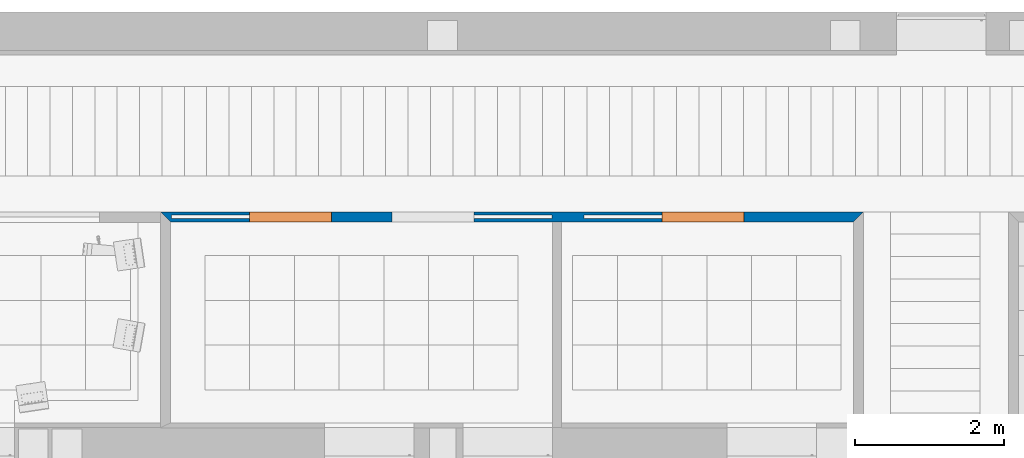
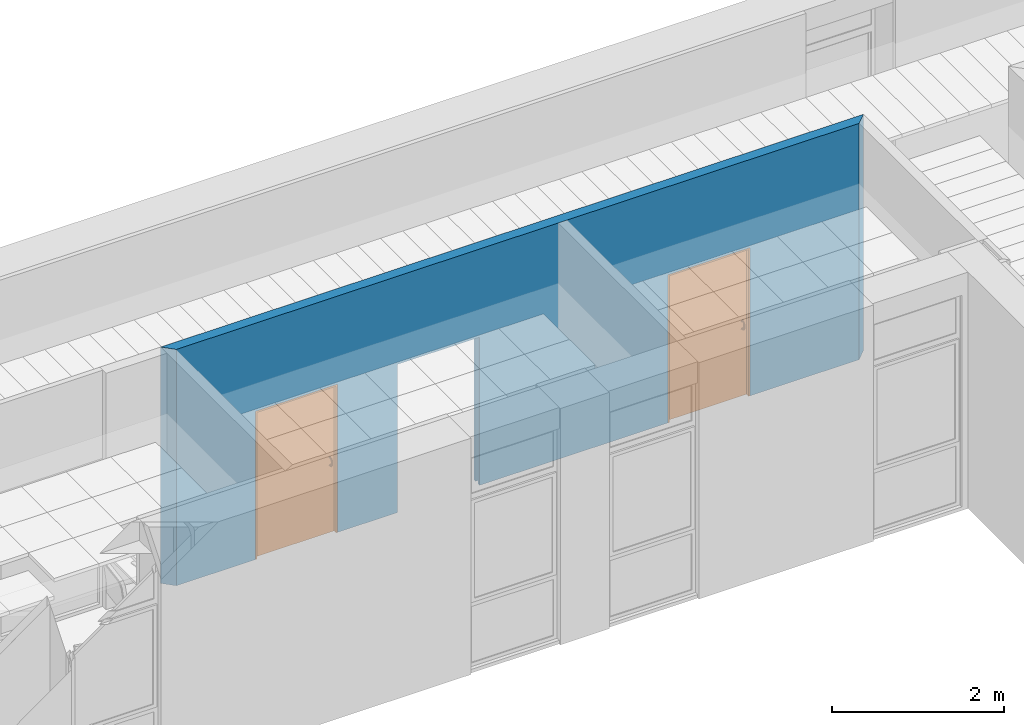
# One storey, part 44 of 68: 2 proxies, 1 wall, 3 openings.
"""IFC2X3 building model written with IfcOpenShell, lengths in millimetres."""

from ifc_helpers import new_model, entity, si_unit, converted_unit, derived_unit, money_unit, direction, frame, origin_with_axes, origin_2d_with_axis, place, context, subcontext, project, spatial, polyline, rectangle, outline, extrude, open_shell, faceted_brep, surface_model, source, transform, mapped, material, layer, layer_set, layer_usage, type_object, element, fill, save


model = new_model("IFC2X3")

# Units and contexts
model_context = context("Model", 3, precision=0.01, world=origin_with_axes(), true_north=direction((0.0, 1.0)))
body_context = subcontext(model_context, "Body", "Model", "MODEL_VIEW")
ifc_project = project(units=[si_unit("LENGTHUNIT", "METRE", prefix="MILLI"), si_unit("AREAUNIT", "SQUARE_METRE"), si_unit("VOLUMEUNIT", "CUBIC_METRE"), converted_unit("PLANEANGLEUNIT", "DEGREE", entity("IfcPlaneAngleMeasure", 0.0174532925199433), si_unit("PLANEANGLEUNIT", "RADIAN"), dimensions=[0, 0, 0, 0, 0, 0, 0]), money_unit("USD"), converted_unit("TIMEUNIT", "Year", entity("IfcTimeMeasure", 31557600.0), si_unit("TIMEUNIT", "SECOND"), dimensions=[0, 0, 1, 0, 0, 0, 0]), si_unit("MASSUNIT", "GRAM", prefix="KILO"), si_unit("THERMODYNAMICTEMPERATUREUNIT", "DEGREE_CELSIUS"), si_unit("LUMINOUSINTENSITYUNIT", "LUMEN"), si_unit("ENERGYUNIT", "JOULE", prefix="MEGA"), derived_unit("THERMALCONDUCTANCEUNIT", [(si_unit("POWERUNIT", "WATT"), 1), (si_unit("LENGTHUNIT", "METRE"), -1), (si_unit("THERMODYNAMICTEMPERATUREUNIT", "KELVIN"), -1)]), derived_unit("SPECIFICHEATCAPACITYUNIT", [(si_unit("ENERGYUNIT", "JOULE"), 1), (si_unit("MASSUNIT", "GRAM", prefix="KILO"), -1), (si_unit("THERMODYNAMICTEMPERATUREUNIT", "KELVIN"), -1)]), derived_unit("MASSDENSITYUNIT", [(si_unit("MASSUNIT", "GRAM", prefix="KILO"), 1), (si_unit("VOLUMEUNIT", "CUBIC_METRE"), -1)])], contexts=[model_context])

# Site, building, storey
site_placement = place(None, origin_with_axes())
site = spatial("IfcSite", under=ifc_project, at=site_placement, Name="Sitio", CompositionType="ELEMENT")
building_placement = place(site_placement, origin_with_axes())
building = spatial("IfcBuilding", under=site, at=building_placement, Name="Construcción", CompositionType="ELEMENT")
storey_placement = place(building_placement, origin_with_axes())
storey = spatial("IfcBuildingStorey", under=building, at=storey_placement, Name="PLANTA 1ª", CompositionType="ELEMENT", Elevation=0.0)

# Wall, openings, proxies
ifc_material_1 = material(Name="Panel de Yeso Laminado")
ifc_layer_1 = layer(ifc_material_1, 13.0, ventilated="UNKNOWN")
ifc_layer_2 = layer(ifc_material_1, 13.0, ventilated="UNKNOWN")
ifc_material_2 = material(Name="ARQ_AI033_Aillament_Llana_De_Roca")
ifc_layer_3 = layer(ifc_material_2, 70.0, ventilated="UNKNOWN")
ifc_layer_4 = layer(ifc_material_1, 13.0, ventilated="UNKNOWN")
ifc_layer_5 = layer(ifc_material_1, 13.0, ventilated="UNKNOWN")
ifc_material_3 = material(Name="ARQ_EN271_Camara_Aire")
ifc_layer_6 = layer(ifc_material_3, 6.0, ventilated="UNKNOWN")
ifc_material_4 = material(Name="ARQ_FU093_Panellat_HPL")
ifc_layer_7 = layer(ifc_material_4, 6.0, ventilated="UNKNOWN")
ifc_layer_set = layer_set([ifc_layer_1, ifc_layer_2, ifc_layer_3, ifc_layer_4, ifc_layer_5, ifc_layer_6, ifc_layer_7], Name="CR Pladur 70 HPL 1 cara")
ifc_layer_usage = layer_usage(ifc_layer_set, "AXIS2", "POSITIVE", 0.0)
wall_type = type_object("IfcWallType", Name="CR Pladur 70 HPL 1 cara 134", PredefinedType="NOTDEFINED")
wall_placement = place(storey_placement, frame((-10845.8481802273, 1566.853055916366, 0.0), z_axis=(0.0, 0.0, 1.0), x_axis=(1.0, 0.0, 0.0)))
wall = element("IfcWallStandardCase", 1, at=wall_placement, inside=storey, type_object=wall_type, material=ifc_layer_usage, Name="MS-213", context=body_context, shape_type="SweptSolid", body=[
    extrude(outline(polyline([(0.0, 0.0), (9155.739175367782, 0.0), (9289.739175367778, 133.9999999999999), (-133.9999999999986, 133.9999999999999), (0.0, 0.0)])), origin_with_axes(), (0.0, 0.0, 1.0), 3350.0),
])
opening_1_placement = place(wall_placement, frame((7140.305255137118, 0.0, 0.0), z_axis=(0.0, 0.0, 1.0), x_axis=(1.0, 0.0, 0.0)))
opening_1 = element("IfcOpeningElement", 2, at=opening_1_placement, cuts=wall, Name="P-04", context=body_context, shape_type="SweptSolid", body=[
    extrude(rectangle(XDim=1100.0, YDim=2100.0, at=origin_2d_with_axis()), frame((0.0, 134.0000000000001, 1050.0), z_axis=(0.0, -1.0, 0.0), x_axis=(-1.0, 0.0, 0.0)), (0.0, 0.0, 1.0), 402.0),
    extrude(rectangle(XDim=1044.999992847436, YDim=2080.0, at=origin_2d_with_axis()), frame((-1072.499996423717, 42.00000000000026, 1040.0), z_axis=(0.0, 1.0, 0.0), x_axis=(-1.0, 0.0, 0.0)), (0.0, 0.0, 1.0), 50.0),
])
opening_2_placement = place(wall_placement, frame((1610.854027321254, 0.0, 0.0), z_axis=(0.0, 0.0, 1.0), x_axis=(1.0, 0.0, 0.0)))
opening_2 = element("IfcOpeningElement", 3, at=opening_2_placement, cuts=wall, Name="P-04", context=body_context, shape_type="SweptSolid", body=[
    extrude(rectangle(XDim=1100.000000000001, YDim=2100.0, at=origin_2d_with_axis()), frame((0.0, 134.0000000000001, 1050.0), z_axis=(0.0, -1.0, 0.0), x_axis=(-1.0, 0.0, 0.0)), (0.0, 0.0, 1.0), 402.0),
    extrude(rectangle(XDim=1044.999992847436, YDim=2080.0, at=origin_2d_with_axis()), frame((-1072.499996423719, 42.00000000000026, 1040.0), z_axis=(0.0, 1.0, 0.0), x_axis=(-1.0, 0.0, 0.0)), (0.0, 0.0, 1.0), 50.0),
])
opening_3_placement = place(wall_placement, frame((3517.761394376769, 0.0, 0.0), z_axis=(0.0, 0.0, 1.0), x_axis=(1.0, 0.0, 0.0)))
element("IfcOpeningElement", 4, at=opening_3_placement, cuts=wall, Name="P-04", context=body_context, shape_type="SweptSolid", body=[
    extrude(rectangle(XDim=1100.0, YDim=2100.0, at=origin_2d_with_axis()), frame((0.0, 134.0000000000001, 1050.0), z_axis=(0.0, 1.0, 0.0), x_axis=(1.0, 0.0, 0.0)), (0.0, 0.0, -1.0), 402.0),
    extrude(rectangle(XDim=1044.999992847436, YDim=2080.0, at=origin_2d_with_axis()), frame((1072.499996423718, 42.00000000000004, 1040.0), z_axis=(0.0, -1.0, 0.0), x_axis=(1.0, 0.0, 0.0)), (0.0, 0.0, -1.0), 50.0),
])
building_element_proxy_type = type_object("IfcBuildingElementProxyType", Name="Puerta Corredera Empotrada 27", PredefinedType="NOTDEFINED")
shared_shape = source(origin_with_axes(), body_context, "Body", "SurfaceModel", [
    faceted_brep([(-550.0, 0.0, 0.0), (-530.0, 0.0, 0.0), (-530.0, -134.0, 0.0), (-550.0, -134.0, 0.0), (-550.0, 0.0, 2080.0), (-530.0, 0.0, 2080.0), (-530.0, -134.0, 2080.0), (-550.0, -134.0, 2080.0)], [[[0, 1, 2, 3]], [[0, 4, 5, 1]], [[1, 5, 6, 2]], [[3, 2, 6, 7]], [[4, 0, 3, 7]], [[5, 4, 7, 6]]]),
    faceted_brep([(530.0, -42.00000000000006, 2080.0), (550.0, -42.00000000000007, 2080.0), (550.0, 0.0, 2080.0), (530.0, 0.0, 2080.0), (550.0, -42.00000000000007, 0.0), (530.0, -42.00000000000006, 0.0), (550.0, 0.0, 0.0), (530.0, 0.0, 0.0)], [[[0, 1, 2, 3]], [[4, 1, 0, 5]], [[1, 4, 6, 2]], [[7, 3, 2, 6]], [[5, 0, 3, 7]], [[4, 5, 7, 6]]]),
    faceted_brep([(550.0, -92.00000000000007, 0.0), (550.0, -92.00000000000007, 2080.0), (550.0, -134.0, 2080.0), (550.0, -134.0, 0.0), (530.0, -92.00000000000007, 2080.0), (530.0, -92.00000000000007, 0.0), (530.0, -134.0, 2080.0), (530.0, -134.0, 0.0)], [[[0, 1, 2, 3]], [[4, 1, 0, 5]], [[1, 4, 6, 2]], [[2, 6, 7, 3]], [[5, 0, 3, 7]], [[4, 5, 7, 6]]]),
    faceted_brep([(-550.0, 0.0, 2100.0), (-550.0, 0.0, 2080.0), (-550.0, -134.0, 2080.0), (-550.0, -134.0, 2100.0), (550.0, 0.0, 2100.0), (550.0, 0.0, 2080.0), (530.0, 0.0, 2080.0), (-530.0, 0.0, 2080.0), (-530.0, -134.0, 2080.0), (530.0, -134.0, 2080.0), (550.0, -134.0, 2080.0), (550.0, -134.0, 2100.0)], [[[0, 1, 2, 3]], [[0, 4, 5, 6, 7, 1]], [[1, 7, 8, 2]], [[3, 2, 8, 9, 10, 11]], [[4, 0, 3, 11]], [[5, 4, 11, 10]], [[6, 5, 10, 9]], [[7, 6, 9, 8]]]),
    faceted_brep([(-473.0000000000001, -109.5, 1050.980762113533), (-473.0000000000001, -94.5, 1055.0), (-473.937822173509, -94.5, 1058.5), (-473.937822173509, -111.25, 1054.011851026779), (-473.937822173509, -107.75, 1047.949673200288), (-473.937822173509, -94.5, 1051.5), (-476.5000000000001, -94.5, 1048.937822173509), (-480.0000000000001, -94.5, 1048.0), (-483.5000000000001, -94.5, 1048.937822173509), (-486.0621778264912, -94.5, 1051.5), (-487.0000000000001, -94.5, 1055.0), (-486.0621778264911, -94.5, 1058.5), (-483.5000000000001, -94.5, 1061.062177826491), (-480.0000000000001, -94.5, 1062.0), (-476.5000000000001, -94.5, 1061.062177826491), (-476.5000000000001, -112.5310889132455, 1056.230762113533), (-473.0000000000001, -120.4807621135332, 1040.0), (-473.937822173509, -123.5118510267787, 1041.75), (-476.5000000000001, -106.4689110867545, 1045.730762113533), (-473.937822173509, -117.4496732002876, 1038.25), (-480.0000000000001, -106.0, 1044.918584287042), (-483.5000000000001, -106.4689110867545, 1045.730762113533), (-486.0621778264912, -107.75, 1047.949673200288), (-487.0000000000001, -109.5, 1050.980762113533), (-486.0621778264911, -111.25, 1054.011851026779), (-483.5000000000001, -112.5310889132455, 1056.230762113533), (-480.0000000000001, -113.0, 1057.042939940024), (-476.5000000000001, -125.7307621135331, 1043.031088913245), (-473.0000000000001, -124.5, 1025.0), (-473.937822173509, -128.0, 1025.0), (-476.5000000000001, -115.2307621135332, 1036.968911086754), (-473.937822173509, -121.0, 1025.0), (-480.0000000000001, -114.4185842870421, 1036.5), (-483.5000000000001, -115.2307621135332, 1036.968911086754), (-486.0621778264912, -117.4496732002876, 1038.25), (-487.0000000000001, -120.4807621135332, 1040.0), (-486.0621778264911, -123.5118510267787, 1041.75), (-483.5000000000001, -125.7307621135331, 1043.031088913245), (-480.0000000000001, -126.5429399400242, 1043.5), (-476.5000000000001, -130.5621778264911, 1025.0), (-480.0000000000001, -131.5, 1025.0), (-483.5000000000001, -130.5621778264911, 1025.0), (-486.0621778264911, -128.0, 1025.0), (-487.0000000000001, -124.5, 1025.0), (-486.0621778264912, -121.0, 1025.0), (-483.5000000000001, -118.4378221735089, 1025.0), (-480.0000000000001, -117.5, 1025.0), (-476.5000000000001, -118.4378221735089, 1025.0)], [[[0, 1, 2, 3]], [[4, 5, 1, 0]], [[1, 5, 6, 7, 8, 9, 10, 11, 12, 13, 14, 2]], [[3, 2, 14, 15]], [[16, 0, 3, 17]], [[18, 6, 5, 4]], [[19, 4, 0, 16]], [[20, 7, 6, 18]], [[21, 8, 7, 20]], [[22, 9, 8, 21]], [[23, 10, 9, 22]], [[24, 11, 10, 23]], [[25, 12, 11, 24]], [[26, 13, 12, 25]], [[15, 14, 13, 26]], [[17, 3, 15, 27]], [[28, 16, 17, 29]], [[30, 18, 4, 19]], [[31, 19, 16, 28]], [[32, 20, 18, 30]], [[33, 21, 20, 32]], [[34, 22, 21, 33]], [[35, 23, 22, 34]], [[36, 24, 23, 35]], [[37, 25, 24, 36]], [[38, 26, 25, 37]], [[27, 15, 26, 38]], [[29, 17, 27, 39]], [[28, 29, 39, 40, 41, 42, 43, 44, 45, 46, 47, 31]], [[47, 30, 19, 31]], [[46, 32, 30, 47]], [[45, 33, 32, 46]], [[44, 34, 33, 45]], [[43, 35, 34, 44]], [[42, 36, 35, 43]], [[41, 37, 36, 42]], [[40, 38, 37, 41]], [[39, 27, 38, 40]]]),
    faceted_brep([(-487.0, -109.5, 949.0192378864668), (-487.0, -94.5, 945.0), (-486.0621778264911, -94.5, 941.5), (-486.0621778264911, -111.25, 945.9881489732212), (-486.0621778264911, -107.75, 952.0503267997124), (-486.0621778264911, -94.5, 948.5), (-483.5, -94.5, 951.062177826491), (-480.0, -94.5, 952.0), (-476.5, -94.5, 951.062177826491), (-473.9378221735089, -94.5, 948.5), (-473.0, -94.5, 945.0), (-473.9378221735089, -94.5, 941.5), (-476.5, -94.5, 938.937822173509), (-480.0, -94.5, 938.0), (-483.5, -94.5, 938.937822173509), (-483.5, -112.5310889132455, 943.7692378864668), (-487.0, -120.4807621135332, 960.0), (-486.0621778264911, -123.5118510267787, 958.2499999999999), (-483.5, -106.4689110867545, 954.2692378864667), (-486.0621778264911, -117.4496732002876, 961.75), (-480.0, -106.0, 955.0814157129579), (-476.5, -106.4689110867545, 954.2692378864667), (-473.9378221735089, -107.75, 952.0503267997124), (-473.0, -109.5, 949.0192378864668), (-473.9378221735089, -111.25, 945.9881489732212), (-476.5, -112.5310889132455, 943.7692378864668), (-480.0, -113.0, 942.9570600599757), (-483.5, -125.7307621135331, 956.9689110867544), (-487.0, -124.5, 975.0), (-486.0621778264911, -128.0, 975.0), (-483.5, -115.2307621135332, 963.0310889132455), (-486.0621778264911, -121.0, 975.0), (-480.0, -114.4185842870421, 963.5), (-476.5, -115.2307621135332, 963.0310889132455), (-473.9378221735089, -117.4496732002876, 961.75), (-473.0, -120.4807621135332, 960.0), (-473.9378221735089, -123.5118510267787, 958.2499999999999), (-476.5, -125.7307621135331, 956.9689110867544), (-480.0, -126.5429399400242, 956.5), (-483.5, -130.5621778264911, 975.0), (-480.0, -131.5, 975.0), (-476.5, -130.5621778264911, 975.0), (-473.9378221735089, -128.0, 975.0), (-473.0, -124.5, 975.0), (-473.9378221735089, -121.0, 975.0), (-476.5, -118.4378221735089, 975.0), (-480.0, -117.5, 975.0), (-483.5, -118.4378221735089, 975.0)], [[[0, 1, 2, 3]], [[4, 5, 1, 0]], [[1, 5, 6, 7, 8, 9, 10, 11, 12, 13, 14, 2]], [[3, 2, 14, 15]], [[16, 0, 3, 17]], [[18, 6, 5, 4]], [[19, 4, 0, 16]], [[20, 7, 6, 18]], [[21, 8, 7, 20]], [[22, 9, 8, 21]], [[23, 10, 9, 22]], [[24, 11, 10, 23]], [[25, 12, 11, 24]], [[26, 13, 12, 25]], [[15, 14, 13, 26]], [[17, 3, 15, 27]], [[28, 16, 17, 29]], [[30, 18, 4, 19]], [[31, 19, 16, 28]], [[32, 20, 18, 30]], [[33, 21, 20, 32]], [[34, 22, 21, 33]], [[35, 23, 22, 34]], [[36, 24, 23, 35]], [[37, 25, 24, 36]], [[38, 26, 25, 37]], [[27, 15, 26, 38]], [[29, 17, 27, 39]], [[28, 29, 39, 40, 41, 42, 43, 44, 45, 46, 47, 31]], [[47, 30, 19, 31]], [[46, 32, 30, 47]], [[45, 33, 32, 46]], [[44, 34, 33, 45]], [[43, 35, 34, 44]], [[42, 36, 35, 43]], [[41, 37, 36, 42]], [[40, 38, 37, 41]], [[39, 27, 38, 40]]]),
    surface_model("IfcShellBasedSurfaceModel", [(-473.0, -124.5, 975.0), (-473.9378221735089, -121.0, 975.0), (-473.9378221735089, -121.0, 1025.0), (-473.0, -124.5, 1025.0), (-476.5, -118.4378221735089, 975.0), (-476.5, -118.4378221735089, 1025.0), (-473.9378221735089, -128.0, 975.0), (-473.9378221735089, -128.0, 1025.0), (-480.0, -117.5, 975.0), (-480.0, -117.5, 1025.0), (-476.5, -130.5621778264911, 975.0), (-476.5, -130.5621778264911, 1025.0), (-483.5, -118.4378221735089, 975.0), (-483.5, -118.4378221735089, 1025.0), (-480.0, -131.5, 975.0), (-480.0, -131.5, 1025.0), (-486.0621778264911, -121.0, 975.0), (-486.0621778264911, -121.0, 1025.0), (-483.5, -130.5621778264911, 975.0), (-483.5, -130.5621778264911, 1025.0), (-487.0, -124.5, 975.0), (-487.0, -124.5, 1025.0), (-486.0621778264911, -128.0, 975.0), (-486.0621778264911, -128.0, 1025.0)], [open_shell([[[0, 1, 2, 3]], [[1, 4, 5, 2]], [[6, 0, 3, 7]], [[4, 8, 9, 5]], [[10, 6, 7, 11]], [[8, 12, 13, 9]], [[14, 10, 11, 15]], [[12, 16, 17, 13]], [[18, 14, 15, 19]], [[16, 20, 21, 17]], [[22, 18, 19, 23]], [[20, 22, 23, 21]]])]),
    faceted_brep([(-462.6794919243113, -87.0, 1045.0), (-470.0, -87.0, 1037.679491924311), (-480.0, -87.0, 1035.0), (-490.0, -87.0, 1037.679491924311), (-497.3205080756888, -87.0, 1045.0), (-500.0, -87.0, 1055.0), (-497.3205080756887, -87.0, 1065.0), (-490.0, -87.0, 1072.320508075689), (-480.0, -87.0, 1075.0), (-470.0, -87.0, 1072.320508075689), (-462.6794919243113, -87.0, 1065.0), (-459.9999999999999, -87.0, 1055.0), (-462.6794919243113, -94.5, 1045.0), (-470.0, -94.5, 1037.679491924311), (-480.0, -94.5, 1035.0), (-490.0, -94.5, 1037.679491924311), (-497.3205080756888, -94.5, 1045.0), (-500.0, -94.5, 1055.0), (-497.3205080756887, -94.5, 1065.0), (-490.0, -94.5, 1072.320508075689), (-480.0, -94.5, 1075.0), (-470.0, -94.5, 1072.320508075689), (-462.6794919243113, -94.5, 1065.0), (-459.9999999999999, -94.5, 1055.0)], [[[0, 1, 2, 3, 4, 5, 6, 7, 8, 9, 10, 11]], [[1, 0, 12, 13]], [[2, 1, 13, 14]], [[3, 2, 14, 15]], [[4, 3, 15, 16]], [[5, 4, 16, 17]], [[6, 5, 17, 18]], [[7, 6, 18, 19]], [[8, 7, 19, 20]], [[9, 8, 20, 21]], [[10, 9, 21, 22]], [[11, 10, 22, 23]], [[0, 11, 23, 12]], [[12, 23, 22, 21, 20, 19, 18, 17, 16, 15, 14, 13]]]),
    faceted_brep([(-462.6794919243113, -87.0, 934.9999999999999), (-470.0, -87.0, 927.6794919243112), (-480.0, -87.0, 924.9999999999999), (-490.0, -87.0, 927.6794919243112), (-497.3205080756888, -87.0, 934.9999999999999), (-500.0, -87.0, 945.0), (-497.3205080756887, -87.0, 955.0), (-490.0, -87.0, 962.3205080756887), (-480.0, -87.0, 965.0), (-470.0, -87.0, 962.3205080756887), (-462.6794919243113, -87.0, 955.0), (-459.9999999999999, -87.0, 945.0), (-462.6794919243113, -94.5, 934.9999999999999), (-470.0, -94.5, 927.6794919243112), (-480.0, -94.5, 924.9999999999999), (-490.0, -94.5, 927.6794919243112), (-497.3205080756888, -94.5, 934.9999999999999), (-500.0, -94.5, 945.0), (-497.3205080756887, -94.5, 955.0), (-490.0, -94.5, 962.3205080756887), (-480.0, -94.5, 965.0), (-470.0, -94.5, 962.3205080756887), (-462.6794919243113, -94.5, 955.0), (-459.9999999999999, -94.5, 945.0)], [[[0, 1, 2, 3, 4, 5, 6, 7, 8, 9, 10, 11]], [[1, 0, 12, 13]], [[2, 1, 13, 14]], [[3, 2, 14, 15]], [[4, 3, 15, 16]], [[5, 4, 16, 17]], [[6, 5, 17, 18]], [[7, 6, 18, 19]], [[8, 7, 19, 20]], [[9, 8, 20, 21]], [[10, 9, 21, 22]], [[11, 10, 22, 23]], [[0, 11, 23, 12]], [[12, 23, 22, 21, 20, 19, 18, 17, 16, 15, 14, 13]]]),
    faceted_brep([(-473.0, -24.49999999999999, 1050.980762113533), (-473.9378221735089, -22.75, 1054.011851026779), (-473.9378221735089, -39.49999999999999, 1058.5), (-473.0, -39.49999999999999, 1055.0), (-473.0, -13.51923788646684, 1040.0), (-473.9378221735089, -10.4881489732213, 1041.75), (-476.5, -21.46891108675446, 1056.230762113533), (-476.5, -39.49999999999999, 1061.062177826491), (-480.0, -39.49999999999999, 1062.0), (-483.5, -39.49999999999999, 1061.062177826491), (-486.0621778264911, -39.49999999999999, 1058.5), (-487.0, -39.49999999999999, 1055.0), (-486.0621778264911, -39.49999999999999, 1051.5), (-483.5, -39.49999999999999, 1048.937822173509), (-480.0, -39.49999999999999, 1048.0), (-476.5, -39.49999999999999, 1048.937822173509), (-473.9378221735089, -39.49999999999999, 1051.5), (-473.9378221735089, -26.25, 1047.949673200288), (-473.0, -9.499999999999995, 1025.0), (-473.9378221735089, -5.999999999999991, 1025.0), (-476.5, -8.269237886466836, 1043.031088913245), (-473.9378221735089, -16.55032679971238, 1038.25), (-480.0, -21.0, 1057.042939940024), (-483.5, -21.46891108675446, 1056.230762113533), (-486.0621778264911, -22.75, 1054.011851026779), (-487.0, -24.49999999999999, 1050.980762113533), (-486.0621778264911, -26.25, 1047.949673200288), (-483.5, -27.53108891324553, 1045.730762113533), (-480.0, -28.0, 1044.918584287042), (-476.5, -27.53108891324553, 1045.730762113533), (-473.9378221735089, -13.0, 1025.0), (-476.5, -15.56217782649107, 1025.0), (-480.0, -16.49999999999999, 1025.0), (-483.5, -15.56217782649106, 1025.0), (-486.0621778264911, -12.99999999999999, 1025.0), (-487.0, -9.499999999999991, 1025.0), (-486.0621778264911, -5.999999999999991, 1025.0), (-483.5, -3.437822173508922, 1025.0), (-480.0, -2.499999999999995, 1025.0), (-476.5, -3.437822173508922, 1025.0), (-480.0, -7.457060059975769, 1043.5), (-476.5, -18.76923788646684, 1036.968911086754), (-483.5, -8.269237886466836, 1043.031088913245), (-486.0621778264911, -10.4881489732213, 1041.75), (-487.0, -13.51923788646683, 1040.0), (-486.0621778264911, -16.55032679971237, 1038.25), (-483.5, -18.76923788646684, 1036.968911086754), (-480.0, -19.58141571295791, 1036.5)], [[[0, 1, 2, 3]], [[4, 5, 1, 0]], [[1, 6, 7, 2]], [[3, 2, 7, 8, 9, 10, 11, 12, 13, 14, 15, 16]], [[17, 0, 3, 16]], [[18, 19, 5, 4]], [[5, 20, 6, 1]], [[21, 4, 0, 17]], [[6, 22, 8, 7]], [[22, 23, 9, 8]], [[23, 24, 10, 9]], [[24, 25, 11, 10]], [[25, 26, 12, 11]], [[26, 27, 13, 12]], [[27, 28, 14, 13]], [[28, 29, 15, 14]], [[29, 17, 16, 15]], [[18, 30, 31, 32, 33, 34, 35, 36, 37, 38, 39, 19]], [[19, 39, 20, 5]], [[30, 18, 4, 21]], [[20, 40, 22, 6]], [[41, 21, 17, 29]], [[40, 42, 23, 22]], [[42, 43, 24, 23]], [[43, 44, 25, 24]], [[44, 45, 26, 25]], [[45, 46, 27, 26]], [[46, 47, 28, 27]], [[47, 41, 29, 28]], [[31, 30, 21, 41]], [[32, 31, 41, 47]], [[33, 32, 47, 46]], [[34, 33, 46, 45]], [[35, 34, 45, 44]], [[36, 35, 44, 43]], [[37, 36, 43, 42]], [[38, 37, 42, 40]], [[39, 38, 40, 20]]]),
    faceted_brep([(-487.0, -24.5, 949.0192378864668), (-486.0621778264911, -22.75, 945.9881489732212), (-486.0621778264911, -39.5, 941.5), (-487.0, -39.5, 945.0), (-487.0, -13.51923788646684, 960.0), (-486.0621778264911, -10.48814897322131, 958.2499999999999), (-483.5, -21.46891108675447, 943.7692378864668), (-483.5, -39.5, 938.937822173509), (-480.0, -39.5, 938.0), (-476.5, -39.5, 938.937822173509), (-473.9378221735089, -39.5, 941.5), (-473.0, -39.5, 945.0), (-473.9378221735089, -39.5, 948.5), (-476.5, -39.5, 951.062177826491), (-480.0, -39.5, 952.0), (-483.5, -39.5, 951.062177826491), (-486.0621778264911, -39.5, 948.5), (-486.0621778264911, -26.25000000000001, 952.0503267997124), (-487.0, -9.500000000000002, 975.0), (-486.0621778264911, -5.999999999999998, 975.0), (-483.5, -8.269237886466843, 956.9689110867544), (-486.0621778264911, -16.55032679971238, 961.75), (-480.0, -21.0, 942.9570600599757), (-476.5, -21.46891108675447, 943.7692378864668), (-473.9378221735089, -22.75, 945.9881489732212), (-473.0, -24.5, 949.0192378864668), (-473.9378221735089, -26.25, 952.0503267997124), (-476.5, -27.53108891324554, 954.2692378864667), (-480.0, -28.0, 955.0814157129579), (-483.5, -27.53108891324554, 954.2692378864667), (-486.0621778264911, -13.00000000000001, 975.0), (-483.5, -15.56217782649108, 975.0), (-480.0, -16.5, 975.0), (-476.5, -15.56217782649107, 975.0), (-473.9378221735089, -13.0, 975.0), (-473.0, -9.499999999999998, 975.0), (-473.9378221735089, -5.999999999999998, 975.0), (-476.5, -3.43782217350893, 975.0), (-480.0, -2.500000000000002, 975.0), (-483.5, -3.43782217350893, 975.0), (-480.0, -7.457060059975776, 956.5), (-483.5, -18.76923788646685, 963.0310889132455), (-476.5, -8.269237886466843, 956.9689110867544), (-473.9378221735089, -10.48814897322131, 958.2499999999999), (-473.0, -13.51923788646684, 960.0), (-473.9378221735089, -16.55032679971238, 961.75), (-476.5, -18.76923788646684, 963.0310889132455), (-480.0, -19.58141571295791, 963.5)], [[[0, 1, 2, 3]], [[4, 5, 1, 0]], [[1, 6, 7, 2]], [[3, 2, 7, 8, 9, 10, 11, 12, 13, 14, 15, 16]], [[17, 0, 3, 16]], [[18, 19, 5, 4]], [[5, 20, 6, 1]], [[21, 4, 0, 17]], [[6, 22, 8, 7]], [[22, 23, 9, 8]], [[23, 24, 10, 9]], [[24, 25, 11, 10]], [[25, 26, 12, 11]], [[26, 27, 13, 12]], [[27, 28, 14, 13]], [[28, 29, 15, 14]], [[29, 17, 16, 15]], [[18, 30, 31, 32, 33, 34, 35, 36, 37, 38, 39, 19]], [[19, 39, 20, 5]], [[30, 18, 4, 21]], [[20, 40, 22, 6]], [[41, 21, 17, 29]], [[40, 42, 23, 22]], [[42, 43, 24, 23]], [[43, 44, 25, 24]], [[44, 45, 26, 25]], [[45, 46, 27, 26]], [[46, 47, 28, 27]], [[47, 41, 29, 28]], [[31, 30, 21, 41]], [[32, 31, 41, 47]], [[33, 32, 47, 46]], [[34, 33, 46, 45]], [[35, 34, 45, 44]], [[36, 35, 44, 43]], [[37, 36, 43, 42]], [[38, 37, 42, 40]], [[39, 38, 40, 20]]]),
    surface_model("IfcShellBasedSurfaceModel", [(-473.0, -9.500000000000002, 975.0), (-473.0, -9.499999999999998, 1025.0), (-473.9378221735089, -13.0, 1025.0), (-473.9378221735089, -13.0, 975.0), (-473.9378221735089, -5.999999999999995, 975.0), (-473.9378221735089, -5.999999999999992, 1025.0), (-476.5, -15.56217782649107, 1025.0), (-476.5, -15.56217782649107, 975.0), (-476.5, -3.437822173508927, 975.0), (-476.5, -3.437822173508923, 1025.0), (-480.0, -16.5, 1025.0), (-480.0, -16.5, 975.0), (-480.0, -2.500000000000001, 975.0), (-480.0, -2.499999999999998, 1025.0), (-483.5, -15.56217782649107, 1025.0), (-483.5, -15.56217782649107, 975.0), (-483.5, -3.437822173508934, 975.0), (-483.5, -3.43782217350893, 1025.0), (-486.0621778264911, -13.0, 1025.0), (-486.0621778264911, -13.00000000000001, 975.0), (-486.0621778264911, -6.000000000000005, 975.0), (-486.0621778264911, -6.000000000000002, 1025.0), (-487.0, -9.500000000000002, 1025.0), (-487.0, -9.500000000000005, 975.0)], [open_shell([[[0, 1, 2, 3]], [[4, 5, 1, 0]], [[3, 2, 6, 7]], [[8, 9, 5, 4]], [[7, 6, 10, 11]], [[12, 13, 9, 8]], [[11, 10, 14, 15]], [[16, 17, 13, 12]], [[15, 14, 18, 19]], [[20, 21, 17, 16]], [[19, 18, 22, 23]], [[23, 22, 21, 20]]])]),
    faceted_brep([(-462.6794919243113, -47.0, 1045.0), (-459.9999999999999, -47.0, 1055.0), (-462.6794919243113, -47.0, 1065.0), (-470.0, -47.0, 1072.320508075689), (-480.0, -47.0, 1075.0), (-490.0, -47.0, 1072.320508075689), (-497.3205080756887, -47.0, 1065.0), (-500.0, -47.0, 1055.0), (-497.3205080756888, -47.0, 1045.0), (-490.0, -47.0, 1037.679491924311), (-480.0, -47.0, 1035.0), (-470.0, -47.0, 1037.679491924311), (-462.6794919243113, -39.5, 1045.0), (-459.9999999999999, -39.5, 1055.0), (-462.6794919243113, -39.5, 1065.0), (-470.0, -39.5, 1072.320508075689), (-480.0, -39.5, 1075.0), (-490.0, -39.5, 1072.320508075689), (-497.3205080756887, -39.5, 1065.0), (-500.0, -39.5, 1055.0), (-497.3205080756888, -39.5, 1045.0), (-490.0, -39.5, 1037.679491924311), (-480.0, -39.5, 1035.0), (-470.0, -39.5, 1037.679491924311)], [[[0, 1, 2, 3, 4, 5, 6, 7, 8, 9, 10, 11]], [[0, 12, 13, 1]], [[1, 13, 14, 2]], [[2, 14, 15, 3]], [[3, 15, 16, 4]], [[4, 16, 17, 5]], [[5, 17, 18, 6]], [[6, 18, 19, 7]], [[7, 19, 20, 8]], [[8, 20, 21, 9]], [[9, 21, 22, 10]], [[10, 22, 23, 11]], [[11, 23, 12, 0]], [[12, 23, 22, 21, 20, 19, 18, 17, 16, 15, 14, 13]]]),
    faceted_brep([(-462.6794919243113, -47.0, 934.9999999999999), (-459.9999999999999, -47.0, 945.0), (-462.6794919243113, -47.0, 955.0), (-470.0, -47.0, 962.3205080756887), (-480.0, -47.0, 965.0), (-490.0, -47.0, 962.3205080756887), (-497.3205080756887, -47.0, 955.0), (-500.0, -47.0, 945.0), (-497.3205080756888, -47.0, 934.9999999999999), (-490.0, -47.0, 927.6794919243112), (-480.0, -47.0, 924.9999999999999), (-470.0, -47.0, 927.6794919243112), (-462.6794919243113, -39.5, 934.9999999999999), (-459.9999999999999, -39.5, 945.0), (-462.6794919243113, -39.5, 955.0), (-470.0, -39.5, 962.3205080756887), (-480.0, -39.5, 965.0), (-490.0, -39.5, 962.3205080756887), (-497.3205080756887, -39.5, 955.0), (-500.0, -39.5, 945.0), (-497.3205080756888, -39.5, 934.9999999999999), (-490.0, -39.5, 927.6794919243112), (-480.0, -39.5, 924.9999999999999), (-470.0, -39.5, 927.6794919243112)], [[[0, 1, 2, 3, 4, 5, 6, 7, 8, 9, 10, 11]], [[0, 12, 13, 1]], [[1, 13, 14, 2]], [[2, 14, 15, 3]], [[3, 15, 16, 4]], [[4, 16, 17, 5]], [[5, 17, 18, 6]], [[6, 18, 19, 7]], [[7, 19, 20, 8]], [[8, 20, 21, 9]], [[9, 21, 22, 10]], [[10, 22, 23, 11]], [[11, 23, 12, 0]], [[12, 23, 22, 21, 20, 19, 18, 17, 16, 15, 14, 13]]]),
    faceted_brep([(530.0, -47.0, 0.0), (530.0, -87.0, 0.0), (-530.0, -87.0, 0.0), (-530.0, -47.0, 0.0), (530.0, -47.00000000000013, 2080.0), (530.0, -87.00000000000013, 2080.0), (-530.0, -87.00000000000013, 2080.0), (-530.0, -47.00000000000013, 2080.0)], [[[0, 1, 2, 3]], [[4, 5, 1, 0]], [[1, 5, 6, 2]], [[3, 2, 6, 7]], [[0, 3, 7, 4]], [[7, 6, 5, 4]]]),
])
proxy_1_placement = place(opening_2_placement, frame((550.0000000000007, 0.0, 0.0), z_axis=(0.0, 0.0, 1.0), x_axis=(-1.0, 0.0, 0.0)))
proxy_1 = element("IfcBuildingElementProxy", 5, at=proxy_1_placement, inside=storey, type_object=building_element_proxy_type, Name="P-04", context=body_context, shape_type="MappedRepresentation", body=[
    mapped(shared_shape, transform((550.0000000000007, 0.0, 0.0))),
])
fill(opening_2, proxy_1)
proxy_2_placement = place(opening_1_placement, frame((549.9999999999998, 0.0, 0.0), z_axis=(0.0, 0.0, 1.0), x_axis=(-1.0, 0.0, 0.0)))
proxy_2 = element("IfcBuildingElementProxy", 6, at=proxy_2_placement, inside=storey, type_object=building_element_proxy_type, Name="P-04", context=body_context, shape_type="MappedRepresentation", body=[
    mapped(shared_shape, transform((549.9999999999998, 0.0, 0.0))),
])
fill(opening_1, proxy_2)

save(model, "model.ifc")
